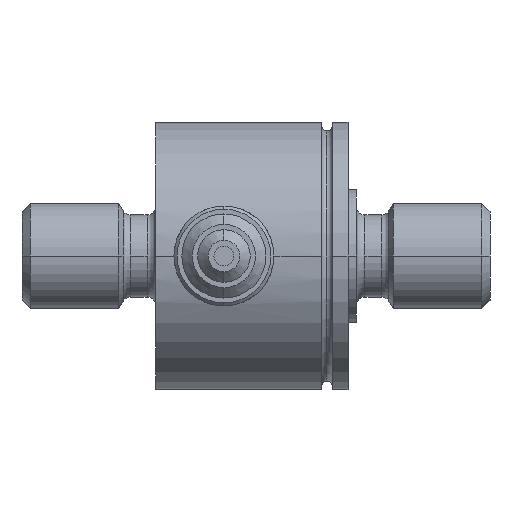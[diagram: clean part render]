
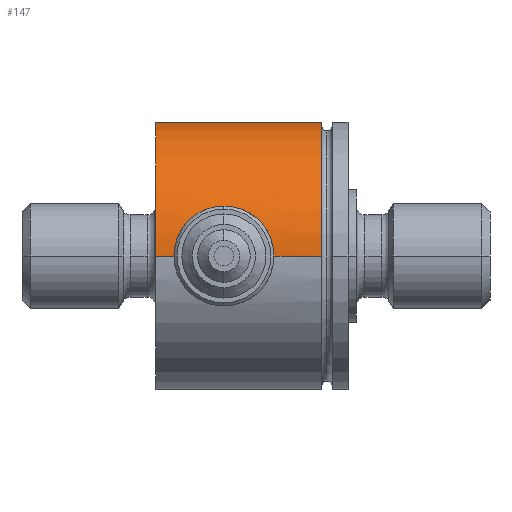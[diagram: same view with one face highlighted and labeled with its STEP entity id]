
A CAD part, left-side view. The second image highlights one B-rep face of the part: STEP entity #147.
In plain terms, the highlighted cylindrical face has radius 12.7 mm (diameter 25.4 mm), a partial arc.
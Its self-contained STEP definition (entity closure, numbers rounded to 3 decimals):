
#147=ADVANCED_FACE('',(#271),#272,.T.);
#271=FACE_OUTER_BOUND('',#485,.T.);
#272=CYLINDRICAL_SURFACE('',#486,12.7);
#485=EDGE_LOOP('',(#830,#831,#832,#833,#834,#835,#836));
#486=AXIS2_PLACEMENT_3D('',#837,#838,#839);
#830=ORIENTED_EDGE('',*,*,#1476,.F.);
#831=ORIENTED_EDGE('',*,*,#1477,.T.);
#832=ORIENTED_EDGE('',*,*,#1478,.F.);
#833=ORIENTED_EDGE('',*,*,#1479,.F.);
#834=ORIENTED_EDGE('',*,*,#1400,.F.);
#835=ORIENTED_EDGE('',*,*,#1480,.F.);
#836=ORIENTED_EDGE('',*,*,#1481,.T.);
#837=CARTESIAN_POINT('',(0.0,31.3,0.0));
#838=DIRECTION('',(0.0,-1.0,0.0));
#839=DIRECTION('',(1.0,0.0,0.0));
#1400=EDGE_CURVE('',#1631,#1633,#1634,.T.);
#1476=EDGE_CURVE('',#1771,#1772,#1773,.T.);
#1477=EDGE_CURVE('',#1771,#1774,#1775,.T.);
#1478=EDGE_CURVE('',#1776,#1774,#1777,.T.);
#1479=EDGE_CURVE('',#1633,#1776,#1778,.T.);
#1480=EDGE_CURVE('',#1779,#1631,#1780,.T.);
#1481=EDGE_CURVE('',#1779,#1772,#1781,.T.);
#1631=VERTEX_POINT('',#1987);
#1633=VERTEX_POINT('',#1998);
#1634=B_SPLINE_CURVE_WITH_KNOTS('',3,(#1999,#2000,#2001,#2002,#2003,#2004,#2005,#2006,#2007,#2008),.UNSPECIFIED.,.F.,.F.,(4,2,2,2,4),(0.723,0.904,1.085,1.266,1.447),.UNSPECIFIED.);
#1771=VERTEX_POINT('',#2176);
#1772=VERTEX_POINT('',#2177);
#1773=LINE('',#2178,#2179);
#1774=VERTEX_POINT('',#2180);
#1775=CIRCLE('',#2181,12.7);
#1776=VERTEX_POINT('',#2182);
#1777=LINE('',#2183,#2184);
#1778=B_SPLINE_CURVE_WITH_KNOTS('',3,(#2185,#2186,#2187,#2188,#2189,#2190,#2191,#2192,#2193,#2194),.UNSPECIFIED.,.F.,.F.,(4,2,2,2,4),(1.447,1.628,1.809,1.989,2.17),.UNSPECIFIED.);
#1779=VERTEX_POINT('',#2195);
#1780=LINE('',#2196,#2197);
#1781=CIRCLE('',#2198,12.7);
#1987=CARTESIAN_POINT('',(-12.7,20.55,0.));
#1998=CARTESIAN_POINT('',(-11.778,25.3,4.75));
#1999=CARTESIAN_POINT('',(-12.7,20.55,0.));
#2000=CARTESIAN_POINT('',(-12.7,20.55,0.603));
#2001=CARTESIAN_POINT('',(-12.653,20.672,1.241));
#2002=CARTESIAN_POINT('',(-12.483,21.158,2.41));
#2003=CARTESIAN_POINT('',(-12.363,21.523,2.94));
#2004=CARTESIAN_POINT('',(-12.133,22.36,3.777));
#2005=CARTESIAN_POINT('',(-12.008,22.89,4.142));
#2006=CARTESIAN_POINT('',(-11.829,24.058,4.628));
#2007=CARTESIAN_POINT('',(-11.778,24.697,4.75));
#2008=CARTESIAN_POINT('',(-11.778,25.3,4.75));
#2176=CARTESIAN_POINT('',(12.7,31.8,0.0));
#2177=CARTESIAN_POINT('',(12.7,16.0,0.0));
#2178=CARTESIAN_POINT('',(12.7,31.3,0.));
#2179=VECTOR('',#2611,1.0);
#2180=CARTESIAN_POINT('',(-12.7,31.8,0.));
#2181=AXIS2_PLACEMENT_3D('',#2612,#2613,#2614);
#2182=CARTESIAN_POINT('',(-12.7,30.05,0.));
#2183=CARTESIAN_POINT('',(-12.7,31.3,0.));
#2184=VECTOR('',#2615,1.0);
#2185=CARTESIAN_POINT('',(-11.778,25.3,4.75));
#2186=CARTESIAN_POINT('',(-11.778,25.903,4.75));
#2187=CARTESIAN_POINT('',(-11.829,26.542,4.628));
#2188=CARTESIAN_POINT('',(-12.008,27.71,4.142));
#2189=CARTESIAN_POINT('',(-12.133,28.24,3.777));
#2190=CARTESIAN_POINT('',(-12.363,29.077,2.94));
#2191=CARTESIAN_POINT('',(-12.483,29.442,2.41));
#2192=CARTESIAN_POINT('',(-12.653,29.928,1.241));
#2193=CARTESIAN_POINT('',(-12.7,30.05,0.603));
#2194=CARTESIAN_POINT('',(-12.7,30.05,0.));
#2195=CARTESIAN_POINT('',(-12.7,16.0,0.));
#2196=CARTESIAN_POINT('',(-12.7,31.3,0.));
#2197=VECTOR('',#2616,1.0);
#2198=AXIS2_PLACEMENT_3D('',#2617,#2618,#2619);
#2611=DIRECTION('',(0.0,-1.0,0.0));
#2612=CARTESIAN_POINT('',(0.0,31.8,0.0));
#2613=DIRECTION('',(0.0,-1.0,0.0));
#2614=DIRECTION('',(1.0,0.0,0.0));
#2615=DIRECTION('',(0.0,1.0,0.0));
#2616=DIRECTION('',(0.0,1.0,0.0));
#2617=CARTESIAN_POINT('',(0.0,16.0,0.0));
#2618=DIRECTION('',(0.0,1.0,0.0));
#2619=DIRECTION('',(1.0,0.0,0.0));
